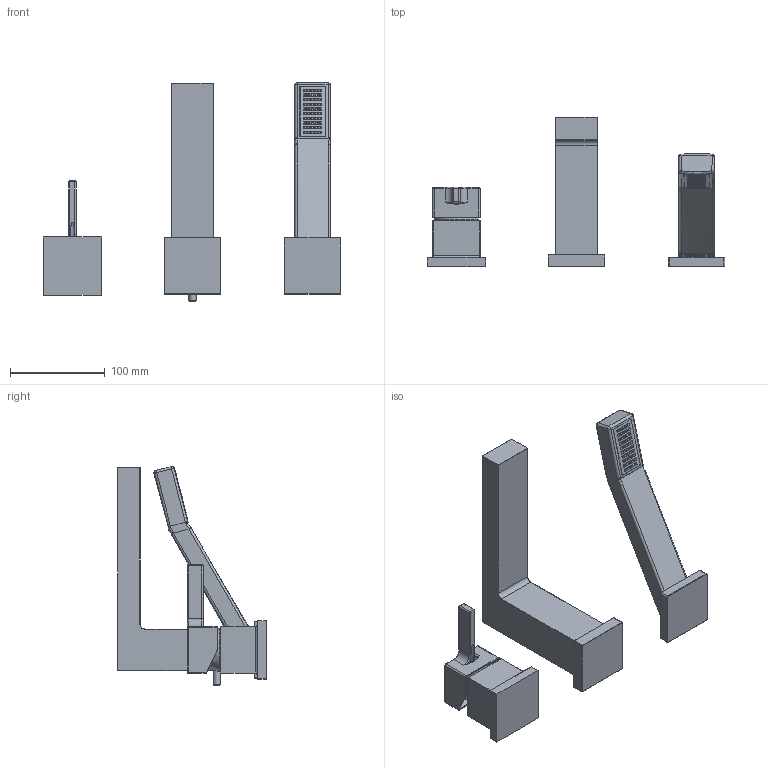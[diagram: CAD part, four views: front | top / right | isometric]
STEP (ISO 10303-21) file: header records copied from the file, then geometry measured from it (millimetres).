
FILE_DESCRIPTION(/* description */ (''),/* implementation_level */ '2;1');
FILE_NAME(/* name */ 'X:\Utilisateurs\Francois\TMZ10 3D.stp',/* time_stamp */ '2016-11-04T13:04:49-04:00',/* author */ ('francoisj'),/* organization */ (''),/* preprocessor_version */ 'ST-DEVELOPER v15.6',/* originating_system */ 'Autodesk Inventor 2015',/* authorisation */ '');
FILE_SCHEMA (('CONFIG_CONTROL_DESIGN'));
Length unit declared in the file: millimetre
Products named in the file (1): MZ10_Shrinkwrap_1
Bounding box: 315 x 157.5 x 231.43 mm (x, y, z)
Volume: 919564.5 mm3; surface area: 136984.4 mm2
Topology: 3 solids, 4 shells, 1208 faces, 2987 edges, 1860 vertices
Faces by surface type: plane 831, cylinder 195, bspline 71, torus 61, sphere 48, cone 2
Full cylindrical faces by diameter (mm): 5 x1, 8 x1
Entity records: 38809 total; most frequent: CARTESIAN_POINT 9015, ORIENTED_EDGE 5872, DIRECTION 5724, EDGE_CURVE 2942, LINE 2178, VECTOR 2178, VERTEX_POINT 1859, AXIS2_PLACEMENT_3D 1773
